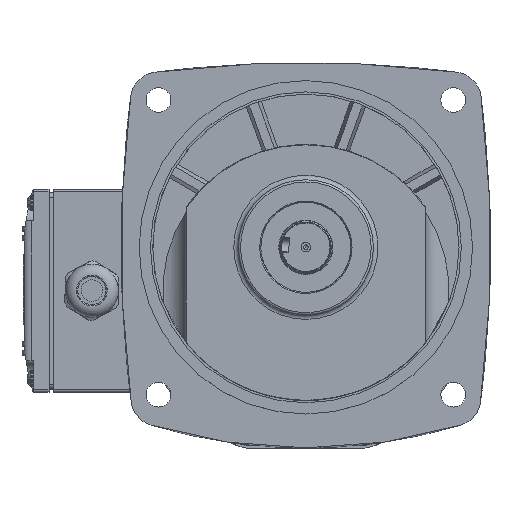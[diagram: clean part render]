
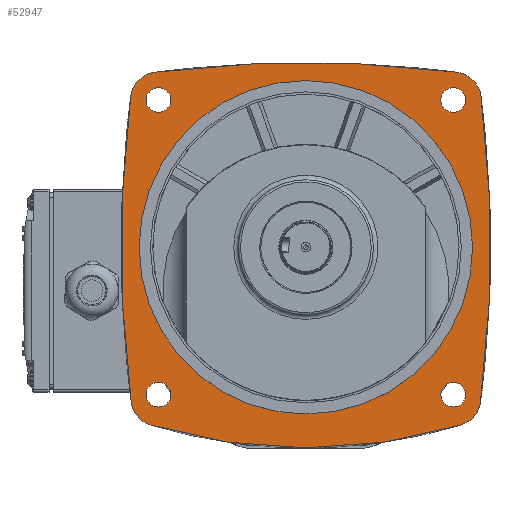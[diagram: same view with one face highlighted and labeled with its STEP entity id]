
A CAD part, top view. The second image highlights one B-rep face of the part: STEP entity #52947.
In plain terms, the highlighted planar face has unit normal (0, 0, 1).
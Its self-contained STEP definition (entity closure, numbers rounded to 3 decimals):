
#2953=FACE_BOUND('',#10713,.T.);
#2954=FACE_BOUND('',#10714,.T.);
#2955=FACE_BOUND('',#10715,.T.);
#2956=FACE_BOUND('',#10716,.T.);
#2957=FACE_BOUND('',#10717,.T.);
#3876=PLANE('',#58160);
#7538=FACE_OUTER_BOUND('',#10712,.T.);
#10712=EDGE_LOOP('',(#44982,#44983,#44984,#44985,#44986,#44987,#44988,#44989));
#10713=EDGE_LOOP('',(#44990));
#10714=EDGE_LOOP('',(#44991));
#10715=EDGE_LOOP('',(#44992));
#10716=EDGE_LOOP('',(#44993));
#10717=EDGE_LOOP('',(#44994));
#13909=CIRCLE('',#58158,74.);
#13911=CIRCLE('',#58161,530.);
#13912=CIRCLE('',#58162,12.5);
#13913=CIRCLE('',#58163,530.);
#13914=CIRCLE('',#58164,12.5);
#13915=CIRCLE('',#58165,240.);
#13916=CIRCLE('',#58166,12.5);
#13917=CIRCLE('',#58167,530.);
#13918=CIRCLE('',#58168,12.5);
#13919=CIRCLE('',#58169,5.5);
#13920=CIRCLE('',#58170,5.5);
#13921=CIRCLE('',#58171,5.5);
#13922=CIRCLE('',#58172,5.5);
#23661=VERTEX_POINT('',#114646);
#23663=VERTEX_POINT('',#114652);
#23664=VERTEX_POINT('',#114653);
#23665=VERTEX_POINT('',#114655);
#23666=VERTEX_POINT('',#114657);
#23667=VERTEX_POINT('',#114659);
#23668=VERTEX_POINT('',#114661);
#23669=VERTEX_POINT('',#114663);
#23670=VERTEX_POINT('',#114665);
#23671=VERTEX_POINT('',#114668);
#23672=VERTEX_POINT('',#114670);
#23673=VERTEX_POINT('',#114672);
#23674=VERTEX_POINT('',#114674);
#30889=EDGE_CURVE('',#23661,#23661,#13909,.T.);
#30892=EDGE_CURVE('',#23663,#23664,#13911,.T.);
#30893=EDGE_CURVE('',#23665,#23663,#13912,.T.);
#30894=EDGE_CURVE('',#23666,#23665,#13913,.T.);
#30895=EDGE_CURVE('',#23667,#23666,#13914,.T.);
#30896=EDGE_CURVE('',#23668,#23667,#13915,.T.);
#30897=EDGE_CURVE('',#23669,#23668,#13916,.T.);
#30898=EDGE_CURVE('',#23670,#23669,#13917,.T.);
#30899=EDGE_CURVE('',#23664,#23670,#13918,.T.);
#30900=EDGE_CURVE('',#23671,#23671,#13919,.T.);
#30901=EDGE_CURVE('',#23672,#23672,#13920,.T.);
#30902=EDGE_CURVE('',#23673,#23673,#13921,.T.);
#30903=EDGE_CURVE('',#23674,#23674,#13922,.T.);
#44982=ORIENTED_EDGE('',*,*,#30892,.F.);
#44983=ORIENTED_EDGE('',*,*,#30893,.F.);
#44984=ORIENTED_EDGE('',*,*,#30894,.F.);
#44985=ORIENTED_EDGE('',*,*,#30895,.F.);
#44986=ORIENTED_EDGE('',*,*,#30896,.F.);
#44987=ORIENTED_EDGE('',*,*,#30897,.F.);
#44988=ORIENTED_EDGE('',*,*,#30898,.F.);
#44989=ORIENTED_EDGE('',*,*,#30899,.F.);
#44990=ORIENTED_EDGE('',*,*,#30900,.F.);
#44991=ORIENTED_EDGE('',*,*,#30901,.F.);
#44992=ORIENTED_EDGE('',*,*,#30902,.F.);
#44993=ORIENTED_EDGE('',*,*,#30903,.F.);
#44994=ORIENTED_EDGE('',*,*,#30889,.F.);
#52947=ADVANCED_FACE('',(#7538,#2953,#2954,#2955,#2956,#2957),#3876,.F.);
#58158=AXIS2_PLACEMENT_3D('',#114647,#70581,#70582);
#58160=AXIS2_PLACEMENT_3D('',#114651,#70586,#70587);
#58161=AXIS2_PLACEMENT_3D('',#114654,#70588,#70589);
#58162=AXIS2_PLACEMENT_3D('',#114656,#70590,#70591);
#58163=AXIS2_PLACEMENT_3D('',#114658,#70592,#70593);
#58164=AXIS2_PLACEMENT_3D('',#114660,#70594,#70595);
#58165=AXIS2_PLACEMENT_3D('',#114662,#70596,#70597);
#58166=AXIS2_PLACEMENT_3D('',#114664,#70598,#70599);
#58167=AXIS2_PLACEMENT_3D('',#114666,#70600,#70601);
#58168=AXIS2_PLACEMENT_3D('',#114667,#70602,#70603);
#58169=AXIS2_PLACEMENT_3D('',#114669,#70604,#70605);
#58170=AXIS2_PLACEMENT_3D('',#114671,#70606,#70607);
#58171=AXIS2_PLACEMENT_3D('',#114673,#70608,#70609);
#58172=AXIS2_PLACEMENT_3D('',#114675,#70610,#70611);
#70581=DIRECTION('center_axis',(0.,0.,1.));
#70582=DIRECTION('ref_axis',(-1.,0.,0.));
#70586=DIRECTION('center_axis',(0.,0.,-1.));
#70587=DIRECTION('ref_axis',(-1.,0.,0.));
#70588=DIRECTION('center_axis',(0.,0.,-1.));
#70589=DIRECTION('ref_axis',(0.144,0.99,0.));
#70590=DIRECTION('center_axis',(0.,0.,-1.));
#70591=DIRECTION('ref_axis',(-0.707,0.707,0.));
#70592=DIRECTION('center_axis',(0.,0.,-1.));
#70593=DIRECTION('ref_axis',(-0.99,0.144,0.));
#70594=DIRECTION('center_axis',(0.,0.,-1.));
#70595=DIRECTION('ref_axis',(-0.762,-0.648,0.));
#70596=DIRECTION('center_axis',(0.,0.,-1.));
#70597=DIRECTION('ref_axis',(-0.319,-0.948,0.));
#70598=DIRECTION('center_axis',(0.,0.,-1.));
#70599=DIRECTION('ref_axis',(0.762,-0.648,0.));
#70600=DIRECTION('center_axis',(0.,0.,-1.));
#70601=DIRECTION('ref_axis',(0.99,-0.144,0.));
#70602=DIRECTION('center_axis',(0.,0.,-1.));
#70603=DIRECTION('ref_axis',(0.707,0.707,0.));
#70604=DIRECTION('center_axis',(0.,0.,1.));
#70605=DIRECTION('ref_axis',(-1.,0.,0.));
#70606=DIRECTION('center_axis',(0.,0.,1.));
#70607=DIRECTION('ref_axis',(-1.,0.,0.));
#70608=DIRECTION('center_axis',(0.,0.,1.));
#70609=DIRECTION('ref_axis',(-1.,0.,0.));
#70610=DIRECTION('center_axis',(0.,0.,1.));
#70611=DIRECTION('ref_axis',(-1.,0.,0.));
#114646=CARTESIAN_POINT('',(74.,19.,71.));
#114647=CARTESIAN_POINT('Origin',(0.,19.,71.));
#114651=CARTESIAN_POINT('Origin',(0.,19.,71.));
#114652=CARTESIAN_POINT('',(-66.935,96.756,71.));
#114653=CARTESIAN_POINT('',(66.935,96.756,71.));
#114654=CARTESIAN_POINT('Origin',(0.,-429.,71.));
#114655=CARTESIAN_POINT('',(-77.756,85.935,71.));
#114656=CARTESIAN_POINT('Origin',(-65.356,84.356,71.));
#114657=CARTESIAN_POINT('',(-77.543,-49.59,71.));
#114658=CARTESIAN_POINT('Origin',(448.,19.,71.));
#114659=CARTESIAN_POINT('',(-68.728,-59.949,71.));
#114660=CARTESIAN_POINT('Origin',(-65.148,-47.972,71.));
#114661=CARTESIAN_POINT('',(68.728,-59.949,71.));
#114662=CARTESIAN_POINT('Origin',(0.,170.,71.));
#114663=CARTESIAN_POINT('',(77.543,-49.59,71.));
#114664=CARTESIAN_POINT('Origin',(65.148,-47.972,71.));
#114665=CARTESIAN_POINT('',(77.756,85.935,71.));
#114666=CARTESIAN_POINT('Origin',(-448.,19.,71.));
#114667=CARTESIAN_POINT('Origin',(65.356,84.356,71.));
#114668=CARTESIAN_POINT('',(70.907,-46.407,71.));
#114669=CARTESIAN_POINT('Origin',(65.407,-46.407,71.));
#114670=CARTESIAN_POINT('',(-59.907,-46.407,71.));
#114671=CARTESIAN_POINT('Origin',(-65.407,-46.407,71.));
#114672=CARTESIAN_POINT('',(-59.907,84.407,71.));
#114673=CARTESIAN_POINT('Origin',(-65.407,84.407,71.));
#114674=CARTESIAN_POINT('',(70.907,84.407,71.));
#114675=CARTESIAN_POINT('Origin',(65.407,84.407,71.));
